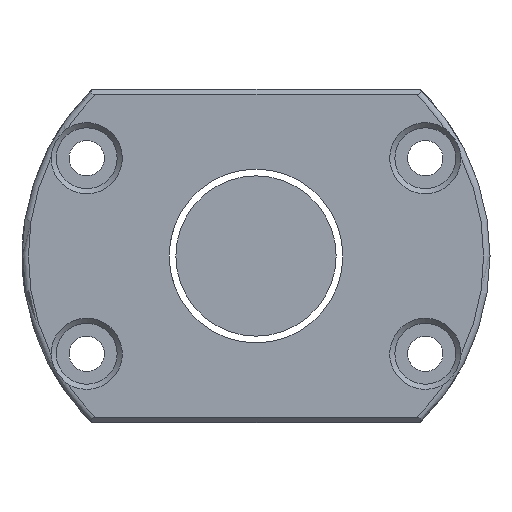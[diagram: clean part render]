
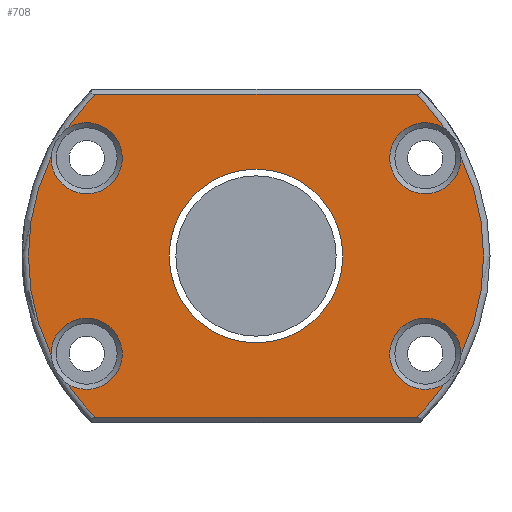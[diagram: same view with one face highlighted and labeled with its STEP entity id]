
A CAD part, left-side view. The second image highlights one B-rep face of the part: STEP entity #708.
In plain terms, the highlighted planar face has unit normal (-1, 0, 0).
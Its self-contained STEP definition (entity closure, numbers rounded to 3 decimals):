
#17 = DIRECTION ( 'NONE',  ( 0., 0., 1. ) ) ;
#99 = EDGE_CURVE ( 'NONE', #1915, #2006, #696, .T. ) ;
#117 = CARTESIAN_POINT ( 'NONE',  ( -83., 0., 0. ) ) ;
#159 = CARTESIAN_POINT ( 'NONE',  ( -83., -29.363, -19.952 ) ) ;
#175 = FACE_BOUND ( 'NONE', #2971, .T. ) ;
#194 = CARTESIAN_POINT ( 'NONE',  ( -83., 36.5, 0. ) ) ;
#232 = DIRECTION ( 'NONE',  ( 0., 0., 1. ) ) ;
#235 = DIRECTION ( 'NONE',  ( -1., 0., 0. ) ) ;
#292 = VERTEX_POINT ( 'NONE', #3553 ) ;
#295 = VERTEX_POINT ( 'NONE', #2497 ) ;
#310 = DIRECTION ( 'NONE',  ( 0., 0., -1. ) ) ;
#354 = ORIENTED_EDGE ( 'NONE', *, *, #1600, .T. ) ;
#383 = AXIS2_PLACEMENT_3D ( 'NONE', #194, #1114, #778 ) ;
#386 = CIRCLE ( 'NONE', #2881, 35.5 ) ;
#507 = CIRCLE ( 'NONE', #2252, 35.5 ) ;
#512 = VERTEX_POINT ( 'NONE', #3342 ) ;
#518 = DIRECTION ( 'NONE',  ( 0., 1., 0. ) ) ;
#519 = DIRECTION ( 'NONE',  ( 0., 0., 1. ) ) ;
#523 = AXIS2_PLACEMENT_3D ( 'NONE', #2983, #2966, #310 ) ;
#579 = DIRECTION ( 'NONE',  ( 1., 0., 0. ) ) ;
#635 = AXIS2_PLACEMENT_3D ( 'NONE', #1904, #1606, #3708 ) ;
#648 = DIRECTION ( 'NONE',  ( -1., 0., 0. ) ) ;
#655 = ORIENTED_EDGE ( 'NONE', *, *, #3114, .T. ) ;
#696 = CIRCLE ( 'NONE', #2061, 35.5 ) ;
#708 = ADVANCED_FACE ( 'NONE', ( #2830, #175 ), #2322, .T. ) ;
#709 = ORIENTED_EDGE ( 'NONE', *, *, #99, .T. ) ;
#722 = DIRECTION ( 'NONE',  ( 0., 0., 1. ) ) ;
#733 = CARTESIAN_POINT ( 'NONE',  ( -83., 29.363, -19.952 ) ) ;
#778 = DIRECTION ( 'NONE',  ( 0., 0., 1. ) ) ;
#818 = ORIENTED_EDGE ( 'NONE', *, *, #2235, .T. ) ;
#837 = DIRECTION ( 'NONE',  ( -1., 0., 0. ) ) ;
#838 = AXIS2_PLACEMENT_3D ( 'NONE', #2142, #3337, #1840 ) ;
#876 = VERTEX_POINT ( 'NONE', #159 ) ;
#910 = EDGE_CURVE ( 'NONE', #1910, #876, #2445, .T. ) ;
#911 = CARTESIAN_POINT ( 'NONE',  ( -83., 29.363, 19.952 ) ) ;
#941 = ORIENTED_EDGE ( 'NONE', *, *, #3522, .T. ) ;
#960 = EDGE_CURVE ( 'NONE', #3072, #2250, #507, .T. ) ;
#1026 = ORIENTED_EDGE ( 'NONE', *, *, #1490, .T. ) ;
#1103 = ORIENTED_EDGE ( 'NONE', *, *, #1531, .T. ) ;
#1114 = DIRECTION ( 'NONE',  ( -1., 0., 0. ) ) ;
#1133 = CARTESIAN_POINT ( 'NONE',  ( -83., 0., 0. ) ) ;
#1201 = CIRCLE ( 'NONE', #635, 5.55 ) ;
#1304 = DIRECTION ( 'NONE',  ( -1., 0., 0. ) ) ;
#1324 = CARTESIAN_POINT ( 'NONE',  ( -83., 25.004, -25.2 ) ) ;
#1339 = VECTOR ( 'NONE', #1916, 1000. ) ;
#1420 = DIRECTION ( 'NONE',  ( 0., 0., 1. ) ) ;
#1429 = ORIENTED_EDGE ( 'NONE', *, *, #910, .T. ) ;
#1431 = EDGE_CURVE ( 'NONE', #3274, #2028, #1620, .T. ) ;
#1490 = EDGE_CURVE ( 'NONE', #295, #2582, #386, .T. ) ;
#1531 = EDGE_CURVE ( 'NONE', #2582, #1915, #1201, .T. ) ;
#1577 = CIRCLE ( 'NONE', #523, 13.55 ) ;
#1600 = EDGE_CURVE ( 'NONE', #3617, #295, #1997, .T. ) ;
#1606 = DIRECTION ( 'NONE',  ( 1., 0., 0. ) ) ;
#1620 = CIRCLE ( 'NONE', #2502, 35.5 ) ;
#1645 = CARTESIAN_POINT ( 'NONE',  ( -83., 0., 0. ) ) ;
#1694 = CIRCLE ( 'NONE', #2831, 35.5 ) ;
#1734 = CARTESIAN_POINT ( 'NONE',  ( -83., -25.004, -25.2 ) ) ;
#1743 = AXIS2_PLACEMENT_3D ( 'NONE', #1645, #235, #1420 ) ;
#1840 = DIRECTION ( 'NONE',  ( 0., 0., 1. ) ) ;
#1904 = CARTESIAN_POINT ( 'NONE',  ( -83., 26.414, 15.25 ) ) ;
#1910 = VERTEX_POINT ( 'NONE', #1734 ) ;
#1915 = VERTEX_POINT ( 'NONE', #3570 ) ;
#1916 = DIRECTION ( 'NONE',  ( 0., -1., 0. ) ) ;
#1961 = CARTESIAN_POINT ( 'NONE',  ( -83., 31.96, -15.453 ) ) ;
#1997 = LINE ( 'NONE', #3196, #2815 ) ;
#2006 = VERTEX_POINT ( 'NONE', #1961 ) ;
#2019 = CIRCLE ( 'NONE', #2521, 5.55 ) ;
#2028 = VERTEX_POINT ( 'NONE', #1324 ) ;
#2061 = AXIS2_PLACEMENT_3D ( 'NONE', #2440, #648, #3028 ) ;
#2142 = CARTESIAN_POINT ( 'NONE',  ( -83., -26.414, 15.25 ) ) ;
#2179 = CARTESIAN_POINT ( 'NONE',  ( -83., -31.96, -15.453 ) ) ;
#2182 = DIRECTION ( 'NONE',  ( 0., 0., 1. ) ) ;
#2205 = CIRCLE ( 'NONE', #3519, 5.55 ) ;
#2218 = EDGE_CURVE ( 'NONE', #512, #3617, #1694, .T. ) ;
#2235 = EDGE_CURVE ( 'NONE', #2006, #3274, #2205, .T. ) ;
#2250 = VERTEX_POINT ( 'NONE', #3839 ) ;
#2252 = AXIS2_PLACEMENT_3D ( 'NONE', #1133, #837, #3124 ) ;
#2304 = EDGE_LOOP ( 'NONE', ( #941, #1429, #3605, #2672, #655, #3409, #354, #1026, #1103, #709, #818, #3093 ) ) ;
#2322 = PLANE ( 'NONE',  #383 ) ;
#2440 = CARTESIAN_POINT ( 'NONE',  ( -83., 0., 0. ) ) ;
#2445 = CIRCLE ( 'NONE', #1743, 35.5 ) ;
#2497 = CARTESIAN_POINT ( 'NONE',  ( -83., 25.004, 25.2 ) ) ;
#2502 = AXIS2_PLACEMENT_3D ( 'NONE', #3668, #2845, #2182 ) ;
#2521 = AXIS2_PLACEMENT_3D ( 'NONE', #3612, #3005, #17 ) ;
#2582 = VERTEX_POINT ( 'NONE', #911 ) ;
#2672 = ORIENTED_EDGE ( 'NONE', *, *, #960, .T. ) ;
#2699 = EDGE_CURVE ( 'NONE', #292, #292, #1577, .T. ) ;
#2792 = EDGE_CURVE ( 'NONE', #876, #3072, #2019, .T. ) ;
#2815 = VECTOR ( 'NONE', #518, 1000. ) ;
#2830 = FACE_OUTER_BOUND ( 'NONE', #2304, .T. ) ;
#2831 = AXIS2_PLACEMENT_3D ( 'NONE', #2887, #3778, #232 ) ;
#2845 = DIRECTION ( 'NONE',  ( -1., 0., 0. ) ) ;
#2881 = AXIS2_PLACEMENT_3D ( 'NONE', #117, #1304, #722 ) ;
#2887 = CARTESIAN_POINT ( 'NONE',  ( -83., 0., 0. ) ) ;
#2966 = DIRECTION ( 'NONE',  ( 1., 0., 0. ) ) ;
#2971 = EDGE_LOOP ( 'NONE', ( #3305 ) ) ;
#2983 = CARTESIAN_POINT ( 'NONE',  ( -83., 0., 0. ) ) ;
#3005 = DIRECTION ( 'NONE',  ( 1., 0., 0. ) ) ;
#3023 = CIRCLE ( 'NONE', #838, 5.55 ) ;
#3028 = DIRECTION ( 'NONE',  ( 0., 0., 1. ) ) ;
#3072 = VERTEX_POINT ( 'NONE', #2179 ) ;
#3093 = ORIENTED_EDGE ( 'NONE', *, *, #1431, .T. ) ;
#3114 = EDGE_CURVE ( 'NONE', #2250, #512, #3023, .T. ) ;
#3124 = DIRECTION ( 'NONE',  ( 0., 0., 1. ) ) ;
#3154 = CARTESIAN_POINT ( 'NONE',  ( -83., -25.617, -25.2 ) ) ;
#3196 = CARTESIAN_POINT ( 'NONE',  ( -83., 25.617, 25.2 ) ) ;
#3262 = CARTESIAN_POINT ( 'NONE',  ( -83., 26.414, -15.25 ) ) ;
#3274 = VERTEX_POINT ( 'NONE', #733 ) ;
#3305 = ORIENTED_EDGE ( 'NONE', *, *, #2699, .T. ) ;
#3337 = DIRECTION ( 'NONE',  ( 1., 0., 0. ) ) ;
#3342 = CARTESIAN_POINT ( 'NONE',  ( -83., -29.363, 19.952 ) ) ;
#3409 = ORIENTED_EDGE ( 'NONE', *, *, #2218, .T. ) ;
#3411 = LINE ( 'NONE', #3154, #1339 ) ;
#3436 = CARTESIAN_POINT ( 'NONE',  ( -83., -25.004, 25.2 ) ) ;
#3519 = AXIS2_PLACEMENT_3D ( 'NONE', #3262, #579, #519 ) ;
#3522 = EDGE_CURVE ( 'NONE', #2028, #1910, #3411, .T. ) ;
#3553 = CARTESIAN_POINT ( 'NONE',  ( -83., 0., -13.55 ) ) ;
#3570 = CARTESIAN_POINT ( 'NONE',  ( -83., 31.96, 15.453 ) ) ;
#3605 = ORIENTED_EDGE ( 'NONE', *, *, #2792, .T. ) ;
#3612 = CARTESIAN_POINT ( 'NONE',  ( -83., -26.414, -15.25 ) ) ;
#3617 = VERTEX_POINT ( 'NONE', #3436 ) ;
#3668 = CARTESIAN_POINT ( 'NONE',  ( -83., 0., 0. ) ) ;
#3708 = DIRECTION ( 'NONE',  ( 0., 0., 1. ) ) ;
#3778 = DIRECTION ( 'NONE',  ( -1., 0., 0. ) ) ;
#3839 = CARTESIAN_POINT ( 'NONE',  ( -83., -31.96, 15.453 ) ) ;
